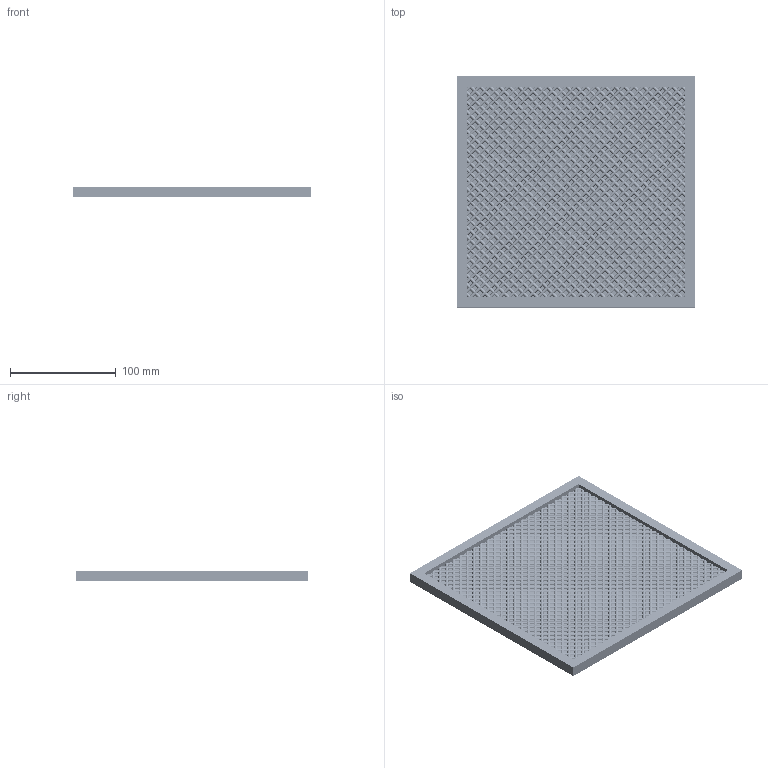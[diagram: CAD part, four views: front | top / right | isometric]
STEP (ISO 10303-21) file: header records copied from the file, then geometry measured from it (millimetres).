
FILE_DESCRIPTION((''),'2;1');
FILE_NAME('131444','2025-08-12T14:41:21',('mikek'),('SAGINAW CONTROL & ENGINEERING'),'CREO PARAMETRIC BY PTC INC, 2021284','CREO PARAMETRIC BY PTC INC, 2021284','');
FILE_SCHEMA(('AUTOMOTIVE_DESIGN { 1 0 10303 214 1 1 1 1 }'));
Products named in the file (1): 131444
Bounding box: 226.06 x 218.95 x 9.91 mm (x, y, z)
Volume: 166436.6 mm3; surface area: 134663.8 mm2
Topology: 1 solids, 1 shells, 6186 faces, 16612 edges, 10430 vertices
Faces by surface type: cylinder 4048, plane 2138
Entity records: 437239 total; most frequent: CARTESIAN_POINT 300290, ORIENTED_EDGE 33224, DIRECTION 20716, EDGE_CURVE 16612, VERTEX_POINT 10430, VECTOR 8328, LINE 8328, B_SPLINE_CURVE_WITH_KNOTS 8276
